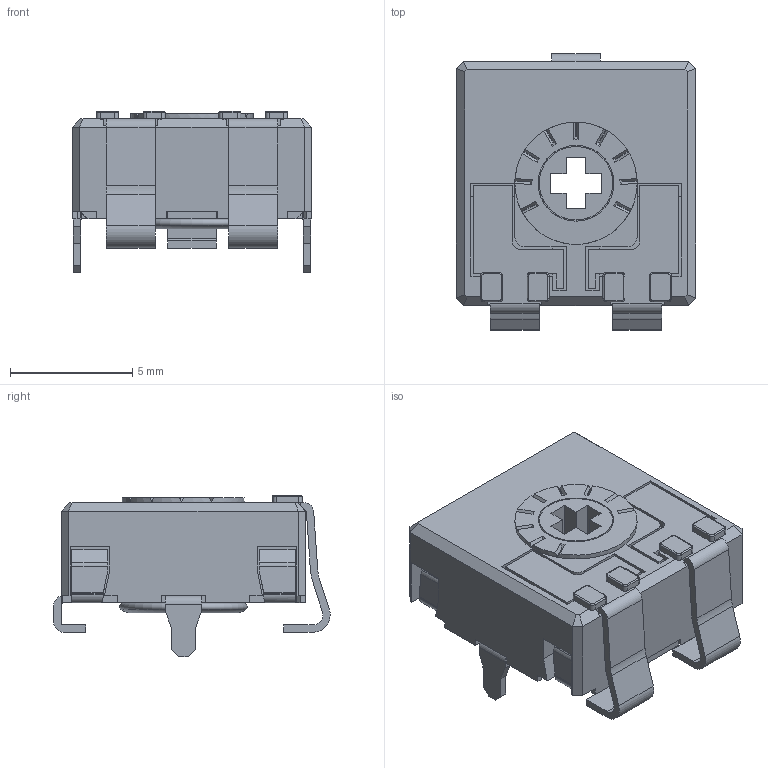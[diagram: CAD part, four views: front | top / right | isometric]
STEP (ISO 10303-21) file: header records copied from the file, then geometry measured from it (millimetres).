
FILE_DESCRIPTION(/* description */ (''),/* implementation_level */ '2;1');
FILE_NAME(/* name */ '\\SERVERACP\intercambio\Ignacio Santa Cecilia\Nueva WEB 2025\CA9 - CE9\CA9RVSMD CY.stp',/* time_stamp */ '2025-06-03T16:32:00+02:00',/* author */ ('CEM'),/* organization */ (''),/* preprocessor_version */ 'ST-DEVELOPER v17',/* originating_system */ 'Autodesk Inventor 2018',/* authorisation */ '');
FILE_SCHEMA (('AUTOMOTIVE_DESIGN { 1 0 10303 214 3 1 1 }'));
Length unit declared in the file: millimetre
Products named in the file (1): CA9RVSMD CY
Bounding box: 9.8 x 11.3 x 6.6 mm (x, y, z)
Volume: 249.2 mm3; surface area: 859.4 mm2
Topology: 2 solids, 2 shells, 544 faces, 1568 edges, 1002 vertices
Faces by surface type: plane 427, cylinder 82, torus 19, cone 16
Full cylindrical faces by diameter (mm): 3 x1, 3.1 x1, 4 x1, 4.8 x1, 5 x1
Entity records: 17900 total; most frequent: CARTESIAN_POINT 3167, ORIENTED_EDGE 3136, DIRECTION 2913, EDGE_CURVE 1568, LINE 1261, VECTOR 1261, VERTEX_POINT 1002, AXIS2_PLACEMENT_3D 826
